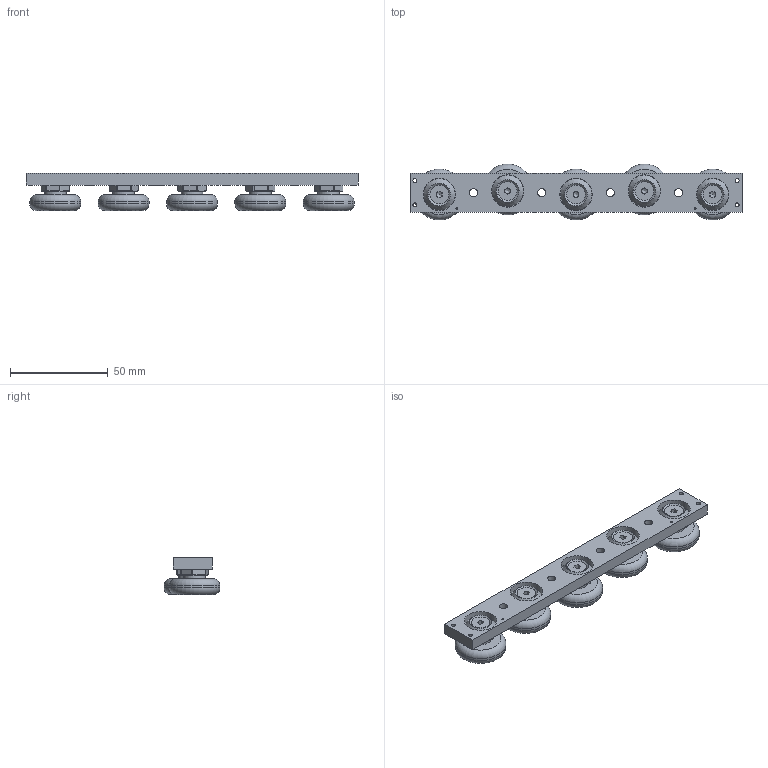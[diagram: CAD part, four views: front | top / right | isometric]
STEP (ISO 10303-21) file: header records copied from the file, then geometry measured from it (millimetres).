
FILE_DESCRIPTION (( 'STEP AP214' ), '1' );
FILE_NAME ('RLS33-5.STEP', '2022-02-01T10:24:12', ( '' ), ( '' ), 'SwSTEP 2.0', 'SolidWorks 2019', '' );
FILE_SCHEMA (( 'AUTOMOTIVE_DESIGN' ));
Length unit declared in the file: millimetre
Products named in the file (6): RLS33-5; 32426; 11686_01; 32425; 11682_01; DIN 7991 - M5 x 12 (schwarz01)_DIN 7991 - M5 x 12 --- 12C_phosphatiert
Assembly tree (16 placements, depth 2):
  RLS33-5
    11682_01
    32425  x3
    32426  x2
    11686_01  x5
    DIN 7991 - M5 x 12 (schwarz01)_DIN 7991 - M5 x 12 --- 12C_phosphatiert  x5
Bounding box: 170 x 28.6 x 19 mm (x, y, z)
Volume: 40566.1 mm3; surface area: 23996.3 mm2
Topology: 16 solids, 16 shells, 403 faces, 791 edges, 440 vertices
Faces by surface type: plane 296, cylinder 55, cone 37, torus 15
Full cylindrical faces by diameter (mm): 1 x2, 2 x4, 4.2 x9, 5 x5, 9 x10, 9.64 x5, 11 x5, 16 x5, 16.6 x5, 26 x5
Entity records: 4129 total; most frequent: DIRECTION 688, CARTESIAN_POINT 605, ORIENTED_EDGE 518, EDGE_CURVE 259, AXIS2_PLACEMENT_3D 254, EDGE_LOOP 242, FACE_OUTER_BOUND 192, LINE 180
